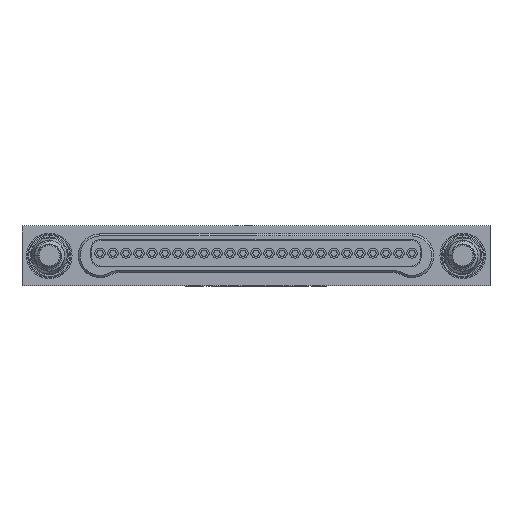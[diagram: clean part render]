
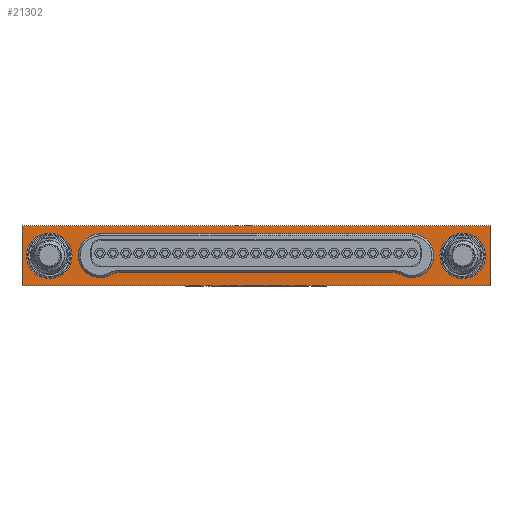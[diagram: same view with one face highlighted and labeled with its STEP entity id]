
A CAD part, top view. The second image highlights one B-rep face of the part: STEP entity #21302.
In plain terms, the highlighted planar face has unit normal (0, 0, 1).
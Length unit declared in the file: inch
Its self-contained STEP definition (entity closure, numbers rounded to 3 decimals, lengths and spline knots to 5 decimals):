
#75 = ORIENTED_EDGE ( 'NONE', *, *, #14737, .T. ) ;
#302 = FACE_OUTER_BOUND ( 'NONE', #19280, .T. ) ;
#576 = CARTESIAN_POINT ( 'NONE',  ( -0.8475, -0.005, 0.015 ) ) ;
#748 = CIRCLE ( 'NONE', #20690, 0.033 ) ;
#941 = DIRECTION ( 'NONE',  ( 0., -1., 0. ) ) ;
#1357 = AXIS2_PLACEMENT_3D ( 'NONE', #23098, #25942, #14557 ) ;
#2476 = CARTESIAN_POINT ( 'NONE',  ( -0.8475, -0.005, 0.015 ) ) ;
#2535 = CIRCLE ( 'NONE', #8249, 0.042 ) ;
#3027 = DIRECTION ( 'NONE',  ( 0., 1., 0. ) ) ;
#3058 = VERTEX_POINT ( 'NONE', #22415 ) ;
#3251 = VECTOR ( 'NONE', #34032, 39.37008 ) ;
#4359 = VERTEX_POINT ( 'NONE', #33424 ) ;
#4498 = CARTESIAN_POINT ( 'NONE',  ( 0., -0.0625, 0.015 ) ) ;
#4551 = AXIS2_PLACEMENT_3D ( 'NONE', #14962, #30917, #25995 ) ;
#5157 = LINE ( 'NONE', #23751, #12193 ) ;
#5499 = VERTEX_POINT ( 'NONE', #14299 ) ;
#5806 = ORIENTED_EDGE ( 'NONE', *, *, #17049, .F. ) ;
#5917 = DIRECTION ( 'NONE',  ( 0., 0., 1. ) ) ;
#7275 = CARTESIAN_POINT ( 'NONE',  ( -0.9, -0.0625, 0.015 ) ) ;
#7652 = EDGE_CURVE ( 'NONE', #28268, #16820, #25142, .T. ) ;
#8193 = EDGE_CURVE ( 'NONE', #15662, #18629, #26319, .T. ) ;
#8210 = LINE ( 'NONE', #20287, #16534 ) ;
#8249 = AXIS2_PLACEMENT_3D ( 'NONE', #17512, #19999, #15026 ) ;
#8587 = CIRCLE ( 'NONE', #4551, 0.04375 ) ;
#8733 = EDGE_CURVE ( 'NONE', #24296, #21382, #5157, .T. ) ;
#9329 = ORIENTED_EDGE ( 'NONE', *, *, #19510, .F. ) ;
#9887 = ORIENTED_EDGE ( 'NONE', *, *, #27357, .T. ) ;
#10213 = VERTEX_POINT ( 'NONE', #21740 ) ;
#10344 = ORIENTED_EDGE ( 'NONE', *, *, #20691, .F. ) ;
#10555 = DIRECTION ( 'NONE',  ( 0., 1., 0. ) ) ;
#12193 = VECTOR ( 'NONE', #23915, 39.37008 ) ;
#12366 = CARTESIAN_POINT ( 'NONE',  ( -0.0525, -0.04875, 0.015 ) ) ;
#12378 = ORIENTED_EDGE ( 'NONE', *, *, #26286, .F. ) ;
#13159 = ORIENTED_EDGE ( 'NONE', *, *, #23727, .T. ) ;
#13780 = AXIS2_PLACEMENT_3D ( 'NONE', #16298, #14153, #27295 ) ;
#13867 = PLANE ( 'NONE',  #20042 ) ;
#14153 = DIRECTION ( 'NONE',  ( 0., 0., 1. ) ) ;
#14259 = CARTESIAN_POINT ( 'NONE',  ( -0.15, -0.005, 0.015 ) ) ;
#14299 = CARTESIAN_POINT ( 'NONE',  ( -0.17095, -0.0414, 0.015 ) ) ;
#14374 = FACE_BOUND ( 'NONE', #18708, .T. ) ;
#14557 = DIRECTION ( 'NONE',  ( 0., -1., 0. ) ) ;
#14716 = CARTESIAN_POINT ( 'NONE',  ( -0.71258, -0.037, 0.015 ) ) ;
#14737 = EDGE_CURVE ( 'NONE', #4359, #23580, #33513, .T. ) ;
#14962 = CARTESIAN_POINT ( 'NONE',  ( -0.0525, -0.005, 0.015 ) ) ;
#15026 = DIRECTION ( 'NONE',  ( 0., -1., 0. ) ) ;
#15599 = CIRCLE ( 'NONE', #32019, 0.042 ) ;
#15662 = VERTEX_POINT ( 'NONE', #29104 ) ;
#15961 = VERTEX_POINT ( 'NONE', #19667 ) ;
#16042 = EDGE_CURVE ( 'NONE', #3058, #15961, #2535, .T. ) ;
#16298 = CARTESIAN_POINT ( 'NONE',  ( -0.0525, -0.005, 0.015 ) ) ;
#16534 = VECTOR ( 'NONE', #30701, 39.37008 ) ;
#16820 = VERTEX_POINT ( 'NONE', #25746 ) ;
#17049 = EDGE_CURVE ( 'NONE', #18629, #15662, #30478, .T. ) ;
#17469 = AXIS2_PLACEMENT_3D ( 'NONE', #576, #5917, #941 ) ;
#17512 = CARTESIAN_POINT ( 'NONE',  ( -0.75, -0.005, 0.015 ) ) ;
#18116 = LINE ( 'NONE', #4498, #3251 ) ;
#18421 = DIRECTION ( 'NONE',  ( 0., 0., -1. ) ) ;
#18629 = VERTEX_POINT ( 'NONE', #25372 ) ;
#18708 = EDGE_LOOP ( 'NONE', ( #5806, #34724 ) ) ;
#18767 = CARTESIAN_POINT ( 'NONE',  ( -0.71258, -0.07, 0.015 ) ) ;
#18952 = CARTESIAN_POINT ( 'NONE',  ( 0., 0.0525, 0.015 ) ) ;
#19280 = EDGE_LOOP ( 'NONE', ( #75, #9887, #32584, #13159 ) ) ;
#19510 = EDGE_CURVE ( 'NONE', #15961, #24296, #748, .T. ) ;
#19667 = CARTESIAN_POINT ( 'NONE',  ( -0.72905, -0.0414, 0.015 ) ) ;
#19917 = CARTESIAN_POINT ( 'NONE',  ( -0.9, 0.0525, 0.015 ) ) ;
#19999 = DIRECTION ( 'NONE',  ( 0., 0., 1. ) ) ;
#20042 = AXIS2_PLACEMENT_3D ( 'NONE', #28560, #22741, #28049 ) ;
#20287 = CARTESIAN_POINT ( 'NONE',  ( -0.75, 0.037, 0.015 ) ) ;
#20467 = EDGE_LOOP ( 'NONE', ( #29036, #12378, #22238, #10344, #26955, #9329 ) ) ;
#20661 = CARTESIAN_POINT ( 'NONE',  ( -0.9, -0.0625, 0.015 ) ) ;
#20691 = EDGE_CURVE ( 'NONE', #21382, #5499, #32009, .T. ) ;
#20690 = AXIS2_PLACEMENT_3D ( 'NONE', #18767, #18421, #10555 ) ;
#21302 = ADVANCED_FACE ( 'NONE', ( #30347, #14374, #302, #21889 ), #13867, .F. ) ;
#21382 = VERTEX_POINT ( 'NONE', #31397 ) ;
#21740 = CARTESIAN_POINT ( 'NONE',  ( -0.15, 0.037, 0.015 ) ) ;
#21889 = FACE_BOUND ( 'NONE', #20467, .T. ) ;
#22238 = ORIENTED_EDGE ( 'NONE', *, *, #23476, .F. ) ;
#22241 = DIRECTION ( 'NONE',  ( -1., 0., 0. ) ) ;
#22415 = CARTESIAN_POINT ( 'NONE',  ( -0.75, 0.037, 0.015 ) ) ;
#22741 = DIRECTION ( 'NONE',  ( 0., 0., -1. ) ) ;
#23098 = CARTESIAN_POINT ( 'NONE',  ( -0.18742, -0.07, 0.015 ) ) ;
#23476 = EDGE_CURVE ( 'NONE', #5499, #10213, #15599, .T. ) ;
#23580 = VERTEX_POINT ( 'NONE', #7275 ) ;
#23727 = EDGE_CURVE ( 'NONE', #31944, #4359, #24925, .T. ) ;
#23751 = CARTESIAN_POINT ( 'NONE',  ( -0.71258, -0.037, 0.015 ) ) ;
#23915 = DIRECTION ( 'NONE',  ( 1., 0., 0. ) ) ;
#24296 = VERTEX_POINT ( 'NONE', #14716 ) ;
#24925 = LINE ( 'NONE', #19917, #28632 ) ;
#24964 = VERTEX_POINT ( 'NONE', #28223 ) ;
#25142 = CIRCLE ( 'NONE', #13780, 0.04375 ) ;
#25301 = DIRECTION ( 'NONE',  ( 1., 0., 0. ) ) ;
#25372 = CARTESIAN_POINT ( 'NONE',  ( -0.8475, -0.04875, 0.015 ) ) ;
#25627 = LINE ( 'NONE', #20661, #30770 ) ;
#25746 = CARTESIAN_POINT ( 'NONE',  ( -0.0525, 0.03875, 0.015 ) ) ;
#25942 = DIRECTION ( 'NONE',  ( 0., 0., -1. ) ) ;
#25995 = DIRECTION ( 'NONE',  ( 0., -1., 0. ) ) ;
#26122 = CARTESIAN_POINT ( 'NONE',  ( -0.9, -0.0625, 0.015 ) ) ;
#26149 = EDGE_LOOP ( 'NONE', ( #29846, #32541 ) ) ;
#26286 = EDGE_CURVE ( 'NONE', #10213, #3058, #8210, .T. ) ;
#26319 = CIRCLE ( 'NONE', #33082, 0.04375 ) ;
#26955 = ORIENTED_EDGE ( 'NONE', *, *, #8733, .F. ) ;
#27295 = DIRECTION ( 'NONE',  ( 0., -1., 0. ) ) ;
#27357 = EDGE_CURVE ( 'NONE', #23580, #24964, #25627, .T. ) ;
#27434 = DIRECTION ( 'NONE',  ( 0., 0., 1. ) ) ;
#27573 = DIRECTION ( 'NONE',  ( 0., -1., 0. ) ) ;
#28049 = DIRECTION ( 'NONE',  ( 0., 1., 0. ) ) ;
#28223 = CARTESIAN_POINT ( 'NONE',  ( 0., -0.0625, 0.015 ) ) ;
#28268 = VERTEX_POINT ( 'NONE', #12366 ) ;
#28560 = CARTESIAN_POINT ( 'NONE',  ( -0.9, 0.0525, 0.015 ) ) ;
#28632 = VECTOR ( 'NONE', #22241, 39.37008 ) ;
#29036 = ORIENTED_EDGE ( 'NONE', *, *, #16042, .F. ) ;
#29104 = CARTESIAN_POINT ( 'NONE',  ( -0.8475, 0.03875, 0.015 ) ) ;
#29681 = DIRECTION ( 'NONE',  ( 0., 0., 1. ) ) ;
#29846 = ORIENTED_EDGE ( 'NONE', *, *, #7652, .F. ) ;
#30168 = EDGE_CURVE ( 'NONE', #24964, #31944, #18116, .T. ) ;
#30347 = FACE_BOUND ( 'NONE', #26149, .T. ) ;
#30478 = CIRCLE ( 'NONE', #17469, 0.04375 ) ;
#30701 = DIRECTION ( 'NONE',  ( -1., 0., 0. ) ) ;
#30770 = VECTOR ( 'NONE', #25301, 39.37008 ) ;
#30917 = DIRECTION ( 'NONE',  ( 0., 0., 1. ) ) ;
#31397 = CARTESIAN_POINT ( 'NONE',  ( -0.18742, -0.037, 0.015 ) ) ;
#31944 = VERTEX_POINT ( 'NONE', #18952 ) ;
#32009 = CIRCLE ( 'NONE', #1357, 0.033 ) ;
#32019 = AXIS2_PLACEMENT_3D ( 'NONE', #14259, #27434, #3027 ) ;
#32541 = ORIENTED_EDGE ( 'NONE', *, *, #33363, .F. ) ;
#32584 = ORIENTED_EDGE ( 'NONE', *, *, #30168, .T. ) ;
#33082 = AXIS2_PLACEMENT_3D ( 'NONE', #2476, #29681, #27573 ) ;
#33363 = EDGE_CURVE ( 'NONE', #16820, #28268, #8587, .T. ) ;
#33424 = CARTESIAN_POINT ( 'NONE',  ( -0.9, 0.0525, 0.015 ) ) ;
#33513 = LINE ( 'NONE', #26122, #34773 ) ;
#33712 = DIRECTION ( 'NONE',  ( 0., -1., 0. ) ) ;
#34032 = DIRECTION ( 'NONE',  ( 0., 1., 0. ) ) ;
#34724 = ORIENTED_EDGE ( 'NONE', *, *, #8193, .F. ) ;
#34773 = VECTOR ( 'NONE', #33712, 39.37008 ) ;
